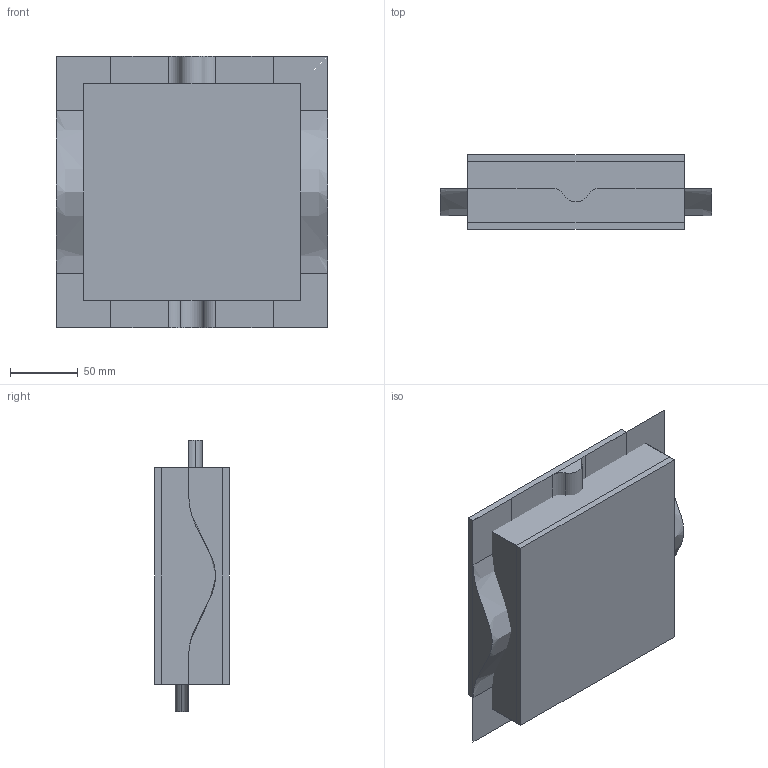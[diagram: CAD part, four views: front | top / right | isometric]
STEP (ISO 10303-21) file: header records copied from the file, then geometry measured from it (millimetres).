
FILE_DESCRIPTION(('CATIA V5 STEP Exchange'),'2;1');
FILE_NAME('C:\_Andres\UNIVERSIDAD\IQS\ASIGNATURAS\DAO\EXF\EXF-16172c\2inicio\Munar_Parra_Ej02_v20.stp','2017-03-05T15:45:29+00:00',('none'),('none'),'CATIA Version 5-6 Release 2014 SP1 HF18','CATIA V5 STEP AP203','none');
FILE_SCHEMA(('CONFIG_CONTROL_DESIGN'));
Length unit declared in the file: millimetre
Products named in the file (1): Munar_Parra_Ej02_v20
Bounding box: 200 x 55 x 200 mm (x, y, z)
Surface area: 257971.8 mm2
Topology: 3 solids, 10 shells, 72 faces, 205 edges, 150 vertices
Faces by surface type: bspline 32, plane 32, cylinder 6, extrusion 2
Entity records: 6158 total; most frequent: CARTESIAN_POINT 4841, ORIENTED_EDGE 288, DIRECTION 151, EDGE_CURVE 132, VERTEX_POINT 84, VECTOR 77, LINE 75, ADVANCED_FACE 72
